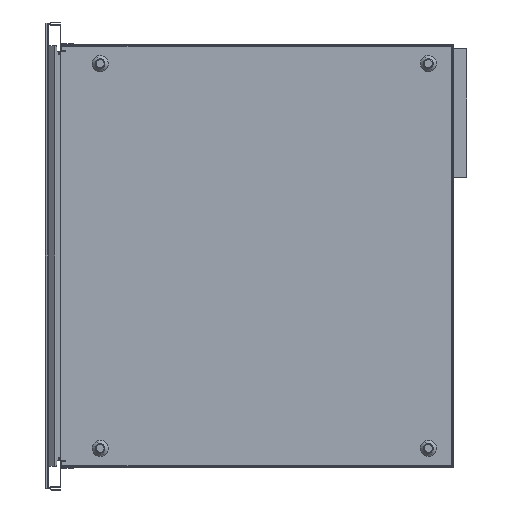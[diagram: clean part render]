
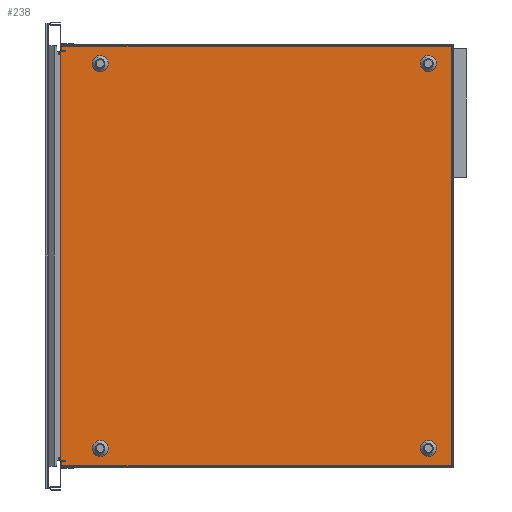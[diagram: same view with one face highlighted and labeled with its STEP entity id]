
A CAD part, front view. The second image highlights one B-rep face of the part: STEP entity #238.
In plain terms, the highlighted planar face has unit normal (0, -1, 0).
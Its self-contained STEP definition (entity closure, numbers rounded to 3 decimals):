
#61=AXIS2_PLACEMENT_3D('Circle Axis2P3D',#59,#60,$) ;
#78=AXIS2_PLACEMENT_3D('Circle Axis2P3D',#76,#77,$) ;
#144=AXIS2_PLACEMENT_3D('Plane Axis2P3D',#141,#142,#143) ;
#186=AXIS2_PLACEMENT_3D('Circle Axis2P3D',#184,#185,$) ;
#195=AXIS2_PLACEMENT_3D('Circle Axis2P3D',#193,#194,$) ;
#204=AXIS2_PLACEMENT_3D('Circle Axis2P3D',#202,#203,$) ;
#213=AXIS2_PLACEMENT_3D('Circle Axis2P3D',#211,#212,$) ;
#222=AXIS2_PLACEMENT_3D('Circle Axis2P3D',#220,#221,$) ;
#231=AXIS2_PLACEMENT_3D('Circle Axis2P3D',#229,#230,$) ;
#40=CARTESIAN_POINT('Vertex',(74.945,-213.,235.948)) ;
#56=CARTESIAN_POINT('Vertex',(65.055,-213.,254.052)) ;
#59=CARTESIAN_POINT('Axis2P3D Location',(70.,-213.,245.)) ;
#76=CARTESIAN_POINT('Axis2P3D Location',(70.,-213.,245.)) ;
#141=CARTESIAN_POINT('Axis2P3D Location',(0.,-213.,0.)) ;
#146=CARTESIAN_POINT('Line Origine',(268.825,-213.,-267.4)) ;
#150=CARTESIAN_POINT('Vertex',(517.65,-213.,-267.4)) ;
#152=CARTESIAN_POINT('Vertex',(20.,-213.,-267.4)) ;
#155=CARTESIAN_POINT('Line Origine',(517.65,-213.,0.)) ;
#159=CARTESIAN_POINT('Vertex',(517.65,-213.,267.4)) ;
#162=CARTESIAN_POINT('Line Origine',(268.825,-213.,267.4)) ;
#166=CARTESIAN_POINT('Vertex',(20.,-213.,267.4)) ;
#169=CARTESIAN_POINT('Line Origine',(20.,-213.,0.)) ;
#184=CARTESIAN_POINT('Axis2P3D Location',(70.,-213.,-245.)) ;
#188=CARTESIAN_POINT('Vertex',(74.945,-213.,-254.052)) ;
#190=CARTESIAN_POINT('Vertex',(65.055,-213.,-235.948)) ;
#193=CARTESIAN_POINT('Axis2P3D Location',(70.,-213.,-245.)) ;
#202=CARTESIAN_POINT('Axis2P3D Location',(488.,-213.,245.)) ;
#206=CARTESIAN_POINT('Vertex',(492.945,-213.,235.948)) ;
#208=CARTESIAN_POINT('Vertex',(483.055,-213.,254.052)) ;
#211=CARTESIAN_POINT('Axis2P3D Location',(488.,-213.,245.)) ;
#220=CARTESIAN_POINT('Axis2P3D Location',(488.,-213.,-245.)) ;
#224=CARTESIAN_POINT('Vertex',(492.945,-213.,-254.052)) ;
#226=CARTESIAN_POINT('Vertex',(483.055,-213.,-235.948)) ;
#229=CARTESIAN_POINT('Axis2P3D Location',(488.,-213.,-245.)) ;
#60=DIRECTION('Axis2P3D Direction',(0.,1.,-0.)) ;
#77=DIRECTION('Axis2P3D Direction',(0.,1.,-0.)) ;
#142=DIRECTION('Axis2P3D Direction',(0.,1.,0.)) ;
#143=DIRECTION('Axis2P3D XDirection',(-1.,0.,0.)) ;
#147=DIRECTION('Vector Direction',(1.,0.,0.)) ;
#156=DIRECTION('Vector Direction',(0.,0.,1.)) ;
#163=DIRECTION('Vector Direction',(-1.,0.,0.)) ;
#170=DIRECTION('Vector Direction',(0.,0.,-1.)) ;
#185=DIRECTION('Axis2P3D Direction',(0.,1.,0.)) ;
#194=DIRECTION('Axis2P3D Direction',(0.,1.,0.)) ;
#203=DIRECTION('Axis2P3D Direction',(0.,1.,0.)) ;
#212=DIRECTION('Axis2P3D Direction',(0.,1.,0.)) ;
#221=DIRECTION('Axis2P3D Direction',(0.,1.,0.)) ;
#230=DIRECTION('Axis2P3D Direction',(0.,1.,0.)) ;
#148=VECTOR('Line Direction',#147,1.) ;
#157=VECTOR('Line Direction',#156,1.) ;
#164=VECTOR('Line Direction',#163,1.) ;
#171=VECTOR('Line Direction',#170,1.) ;
#175=ORIENTED_EDGE('',*,*,#154,.F.) ;
#176=ORIENTED_EDGE('',*,*,#161,.F.) ;
#177=ORIENTED_EDGE('',*,*,#168,.F.) ;
#178=ORIENTED_EDGE('',*,*,#173,.F.) ;
#181=ORIENTED_EDGE('',*,*,#63,.F.) ;
#182=ORIENTED_EDGE('',*,*,#80,.F.) ;
#199=ORIENTED_EDGE('',*,*,#192,.F.) ;
#200=ORIENTED_EDGE('',*,*,#197,.F.) ;
#217=ORIENTED_EDGE('',*,*,#210,.F.) ;
#218=ORIENTED_EDGE('',*,*,#215,.F.) ;
#235=ORIENTED_EDGE('',*,*,#228,.F.) ;
#236=ORIENTED_EDGE('',*,*,#233,.F.) ;
#183=FACE_BOUND('',#180,.T.) ;
#201=FACE_BOUND('',#198,.T.) ;
#219=FACE_BOUND('',#216,.T.) ;
#237=FACE_BOUND('',#234,.T.) ;
#238=ADVANCED_FACE('Schublade.Geh\X2\00E4\X0\use',(#179,#183,#201,#219,#237),#145,.F.) ;
#62=CIRCLE('generated circle',#61,10.315) ;
#79=CIRCLE('generated circle',#78,10.315) ;
#187=CIRCLE('generated circle',#186,10.315) ;
#196=CIRCLE('generated circle',#195,10.315) ;
#205=CIRCLE('generated circle',#204,10.315) ;
#214=CIRCLE('generated circle',#213,10.315) ;
#223=CIRCLE('generated circle',#222,10.315) ;
#232=CIRCLE('generated circle',#231,10.315) ;
#63=EDGE_CURVE('',#57,#41,#62,.F.) ;
#80=EDGE_CURVE('',#41,#57,#79,.F.) ;
#154=EDGE_CURVE('',#151,#153,#149,.F.) ;
#161=EDGE_CURVE('',#160,#151,#158,.F.) ;
#168=EDGE_CURVE('',#167,#160,#165,.F.) ;
#173=EDGE_CURVE('',#153,#167,#172,.F.) ;
#192=EDGE_CURVE('',#189,#191,#187,.F.) ;
#197=EDGE_CURVE('',#191,#189,#196,.F.) ;
#210=EDGE_CURVE('',#207,#209,#205,.F.) ;
#215=EDGE_CURVE('',#209,#207,#214,.F.) ;
#228=EDGE_CURVE('',#225,#227,#223,.F.) ;
#233=EDGE_CURVE('',#227,#225,#232,.F.) ;
#174=EDGE_LOOP('',(#175,#176,#177,#178)) ;
#180=EDGE_LOOP('',(#181,#182)) ;
#198=EDGE_LOOP('',(#199,#200)) ;
#216=EDGE_LOOP('',(#217,#218)) ;
#234=EDGE_LOOP('',(#235,#236)) ;
#179=FACE_OUTER_BOUND('',#174,.T.) ;
#149=LINE('Line',#146,#148) ;
#158=LINE('Line',#155,#157) ;
#165=LINE('Line',#162,#164) ;
#172=LINE('Line',#169,#171) ;
#145=PLANE('',#144) ;
#41=VERTEX_POINT('',#40) ;
#57=VERTEX_POINT('',#56) ;
#151=VERTEX_POINT('',#150) ;
#153=VERTEX_POINT('',#152) ;
#160=VERTEX_POINT('',#159) ;
#167=VERTEX_POINT('',#166) ;
#189=VERTEX_POINT('',#188) ;
#191=VERTEX_POINT('',#190) ;
#207=VERTEX_POINT('',#206) ;
#209=VERTEX_POINT('',#208) ;
#225=VERTEX_POINT('',#224) ;
#227=VERTEX_POINT('',#226) ;
